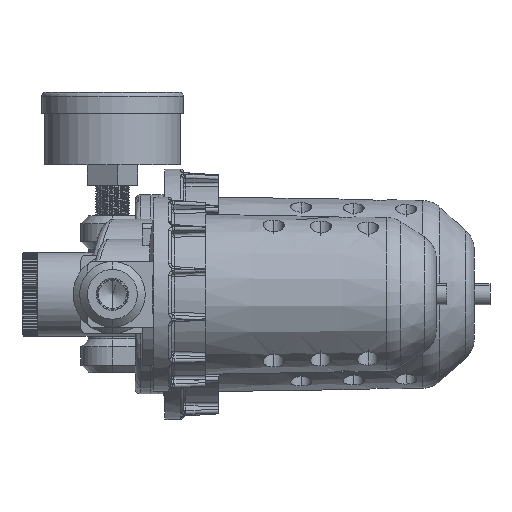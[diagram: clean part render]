
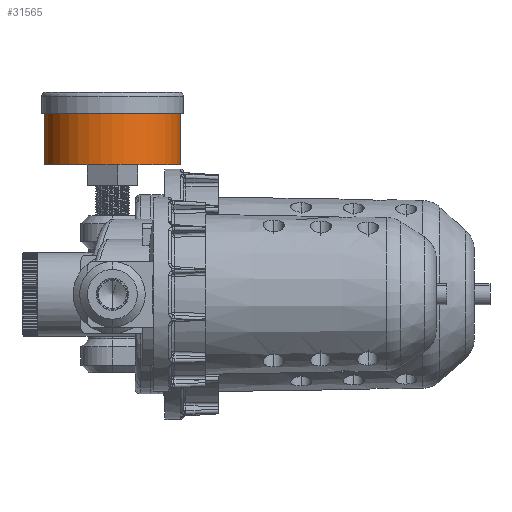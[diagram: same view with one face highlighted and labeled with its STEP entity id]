
A CAD part, left-side view. The second image highlights one B-rep face of the part: STEP entity #31565.
In plain terms, the highlighted cylindrical face has radius 26 mm (diameter 52 mm), a partial arc.
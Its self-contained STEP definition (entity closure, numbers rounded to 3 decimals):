
#31 = EDGE_CURVE ( 'NONE', #35379, #12775, #45485, .T. ) ;
#1951 = AXIS2_PLACEMENT_3D ( 'NONE', #16593, #40420, #50037 ) ;
#3744 = VERTEX_POINT ( 'NONE', #42572 ) ;
#7396 = FACE_OUTER_BOUND ( 'NONE', #49708, .T. ) ;
#10233 = ORIENTED_EDGE ( 'NONE', *, *, #46597, .T. ) ;
#10740 = LINE ( 'NONE', #60635, #59262 ) ;
#11226 = DIRECTION ( 'NONE',  ( 0., 0., 1. ) ) ;
#12775 = VERTEX_POINT ( 'NONE', #36133 ) ;
#13297 = DIRECTION ( 'NONE',  ( 0., -1., 0. ) ) ;
#14224 = AXIS2_PLACEMENT_3D ( 'NONE', #39999, #58676, #11226 ) ;
#16593 = CARTESIAN_POINT ( 'NONE',  ( 0., 0., 0. ) ) ;
#20645 = AXIS2_PLACEMENT_3D ( 'NONE', #51113, #51512, #23013 ) ;
#22545 = CIRCLE ( 'NONE', #14224, 26. ) ;
#23013 = DIRECTION ( 'NONE',  ( 0., 0., -1. ) ) ;
#23298 = EDGE_CURVE ( 'NONE', #35379, #25661, #22545, .T. ) ;
#23417 = CARTESIAN_POINT ( 'NONE',  ( 0., 27.5, -26. ) ) ;
#25051 = CARTESIAN_POINT ( 'NONE',  ( 0., 19.5, -26. ) ) ;
#25661 = VERTEX_POINT ( 'NONE', #29701 ) ;
#27946 = CYLINDRICAL_SURFACE ( 'NONE', #20645, 26. ) ;
#29215 = EDGE_CURVE ( 'NONE', #25661, #3744, #10740, .T. ) ;
#29701 = CARTESIAN_POINT ( 'NONE',  ( 0., 19.5, 26. ) ) ;
#31565 = ADVANCED_FACE ( 'NONE', ( #7396 ), #27946, .T. ) ;
#33956 = ORIENTED_EDGE ( 'NONE', *, *, #29215, .F. ) ;
#35285 = DIRECTION ( 'NONE',  ( 0., -1., 0. ) ) ;
#35379 = VERTEX_POINT ( 'NONE', #25051 ) ;
#36133 = CARTESIAN_POINT ( 'NONE',  ( 0., 0., -26. ) ) ;
#39999 = CARTESIAN_POINT ( 'NONE',  ( 0., 19.5, 0. ) ) ;
#40420 = DIRECTION ( 'NONE',  ( 0., 1., 0. ) ) ;
#42572 = CARTESIAN_POINT ( 'NONE',  ( 0., 0., 26. ) ) ;
#45485 = LINE ( 'NONE', #23417, #57185 ) ;
#46597 = EDGE_CURVE ( 'NONE', #12775, #3744, #54814, .T. ) ;
#49293 = ORIENTED_EDGE ( 'NONE', *, *, #23298, .F. ) ;
#49708 = EDGE_LOOP ( 'NONE', ( #33956, #49293, #50894, #10233 ) ) ;
#50037 = DIRECTION ( 'NONE',  ( 0., 0., 1. ) ) ;
#50894 = ORIENTED_EDGE ( 'NONE', *, *, #31, .T. ) ;
#51113 = CARTESIAN_POINT ( 'NONE',  ( 0., 27.5, 0. ) ) ;
#51512 = DIRECTION ( 'NONE',  ( 0., -1., 0. ) ) ;
#54814 = CIRCLE ( 'NONE', #1951, 26. ) ;
#57185 = VECTOR ( 'NONE', #35285, 1000. ) ;
#58676 = DIRECTION ( 'NONE',  ( 0., 1., 0. ) ) ;
#59262 = VECTOR ( 'NONE', #13297, 1000. ) ;
#60635 = CARTESIAN_POINT ( 'NONE',  ( 0., 27.5, 26. ) ) ;
